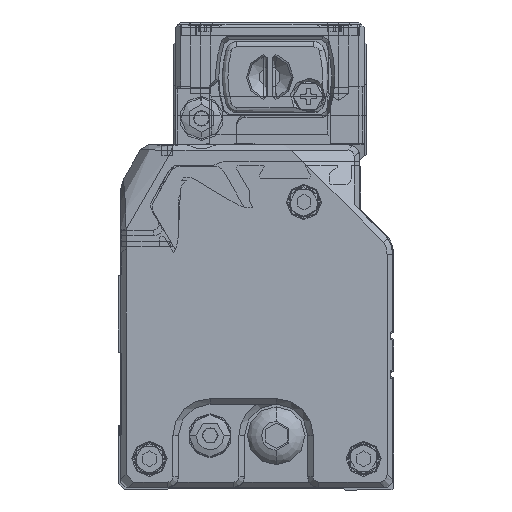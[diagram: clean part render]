
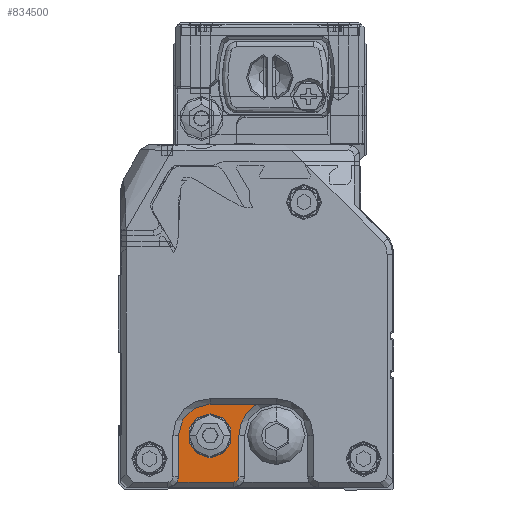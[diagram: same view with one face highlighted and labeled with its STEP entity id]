
A CAD part, left-side view. The second image highlights one B-rep face of the part: STEP entity #834500.
In plain terms, the highlighted planar face has unit normal (-1, 0, 0) as drawn and (1, 0, 0) by its records, which use the part's own axes.
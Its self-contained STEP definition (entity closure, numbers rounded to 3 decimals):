
#832950=CARTESIAN_POINT('',(7464.177,2.462,
3.148));
#832960=DIRECTION('',(-1.,0.,0.));
#832970=DIRECTION('',(0.,1.,0.));
#832980=AXIS2_PLACEMENT_3D('',#832950,#832960,#832970);
#832990=CIRCLE('',#832980,5.75);
#833000=CARTESIAN_POINT('',(7464.177,8.212,
3.148));
#833010=VERTEX_POINT('',#833000);
#833020=CARTESIAN_POINT('',(7464.177,2.462,
-2.602));
#833030=VERTEX_POINT('',#833020);
#833040=EDGE_CURVE('',#833010,#833030,#832990,.T.);
#833450=CARTESIAN_POINT('',(7464.177,8.212,
3.148));
#833460=DIRECTION('',(0.,0.,1.));
#833470=VECTOR('',#833460,1.);
#833480=LINE('',#833450,#833470);
#833490=CARTESIAN_POINT('',(7464.177,8.212,
10.598));
#833500=VERTEX_POINT('',#833490);
#833510=EDGE_CURVE('',#833010,#833500,#833480,.T.);
#833770=CARTESIAN_POINT('',(7464.177,-5.938,
-12.8));
#833780=DIRECTION('',(-1.,0.,0.));
#833790=DIRECTION('',(0.,0.,-1.));
#833800=AXIS2_PLACEMENT_3D('',#833770,#833780,#833790);
#833810=PLANE('',#833800);
#833820=CARTESIAN_POINT('',(7464.177,4.212,
11.598));
#833830=DIRECTION('',(0.,-1.,0.));
#833840=VECTOR('',#833830,1.);
#833850=LINE('',#833820,#833840);
#833860=CARTESIAN_POINT('',(7464.177,8.48,
11.598));
#833870=VERTEX_POINT('',#833860);
#833880=CARTESIAN_POINT('',(7464.177,-1.788,
11.598));
#833890=VERTEX_POINT('',#833880);
#833900=EDGE_CURVE('',#833870,#833890,#833850,.T.);
#833910=ORIENTED_EDGE('',*,*,#833900,.T.);
#833920=CARTESIAN_POINT('',(7464.177,10.212,
10.598));
#833930=DIRECTION('',(-1.,0.,0.));
#833940=DIRECTION('',(0.,1.,0.));
#833950=AXIS2_PLACEMENT_3D('',#833920,#833930,#833940);
#833960=CIRCLE('',#833950,2.);
#833970=EDGE_CURVE('',#833500,#833870,#833960,.T.);
#833980=ORIENTED_EDGE('',*,*,#833970,.T.);
#833990=ORIENTED_EDGE('',*,*,#833510,.T.);
#834000=ORIENTED_EDGE('',*,*,#833040,.F.);
#834010=CARTESIAN_POINT('',(7464.177,-5.888,
-2.602));
#834020=DIRECTION('',(0.,1.,0.));
#834030=VECTOR('',#834020,1.);
#834040=LINE('',#834010,#834030);
#834050=CARTESIAN_POINT('',(7464.177,-6.002,
-2.602));
#834060=VERTEX_POINT('',#834050);
#834070=EDGE_CURVE('',#834060,#833030,#834040,.T.);
#834080=ORIENTED_EDGE('',*,*,#834070,.T.);
#834090=CARTESIAN_POINT('',(7464.177,-9.538,
3.148));
#834100=DIRECTION('',(-1.,0.,0.));
#834110=DIRECTION('',(0.,1.,0.));
#834120=AXIS2_PLACEMENT_3D('',#834090,#834100,#834110);
#834130=CIRCLE('',#834120,6.75);
#834140=CARTESIAN_POINT('',(7464.177,-2.788,
3.148));
#834150=VERTEX_POINT('',#834140);
#834160=EDGE_CURVE('',#834150,#834060,#834130,.T.);
#834170=ORIENTED_EDGE('',*,*,#834160,.T.);
#834180=CARTESIAN_POINT('',(7464.177,-2.788,
6.873));
#834190=DIRECTION('',(0.,0.,-1.));
#834200=VECTOR('',#834190,1.);
#834210=LINE('',#834180,#834200);
#834220=CARTESIAN_POINT('',(7464.177,-2.788,
10.598));
#834230=VERTEX_POINT('',#834220);
#834240=EDGE_CURVE('',#834230,#834150,#834210,.T.);
#834250=ORIENTED_EDGE('',*,*,#834240,.T.);
#834260=CARTESIAN_POINT('',(7464.177,-1.788,
10.598));
#834270=DIRECTION('',(-1.,0.,0.));
#834280=DIRECTION('',(0.,1.,0.));
#834290=AXIS2_PLACEMENT_3D('',#834260,#834270,#834280);
#834300=CIRCLE('',#834290,1.);
#834310=EDGE_CURVE('',#834230,#833890,#834300,.T.);
#834320=ORIENTED_EDGE('',*,*,#834310,.F.);
#834330=EDGE_LOOP('',(#834320,#834250,#834170,#834080,#834000,#833990,
#833980,#833910));
#834340=FACE_OUTER_BOUND('',#834330,.T.);
#834350=CARTESIAN_POINT('',(7464.177,2.462,
3.148));
#834360=DIRECTION('',(-1.,0.,0.));
#834370=DIRECTION('',(0.,0.,-1.));
#834380=AXIS2_PLACEMENT_3D('',#834350,#834360,#834370);
#834390=CIRCLE('',#834380,4.);
#834400=CARTESIAN_POINT('',(7464.177,2.462,
7.148));
#834410=VERTEX_POINT('',#834400);
#834420=CARTESIAN_POINT('',(7464.177,2.462,
-0.852));
#834430=VERTEX_POINT('',#834420);
#834440=EDGE_CURVE('',#834410,#834430,#834390,.T.);
#834450=ORIENTED_EDGE('',*,*,#834440,.T.);
#834460=EDGE_CURVE('',#834430,#834410,#834390,.T.);
#834470=ORIENTED_EDGE('',*,*,#834460,.T.);
#834480=EDGE_LOOP('',(#834470,#834450));
#834490=FACE_BOUND('',#834480,.T.);
#834500=ADVANCED_FACE('',(#834340,#834490),#833810,.F.);
